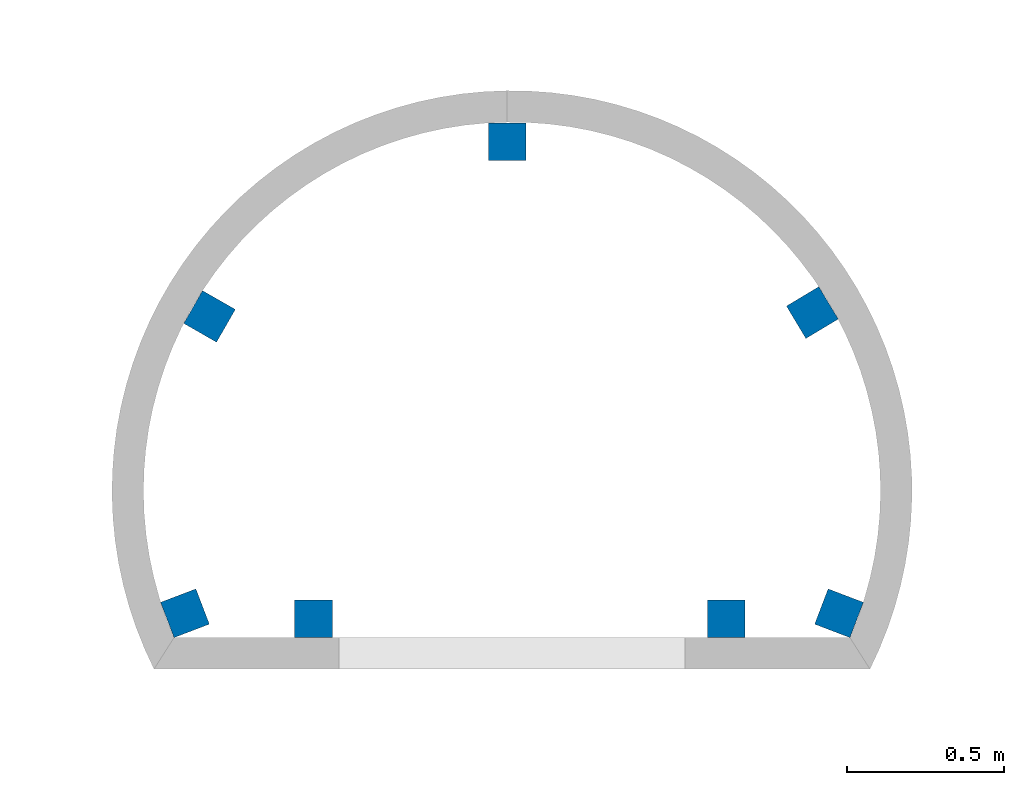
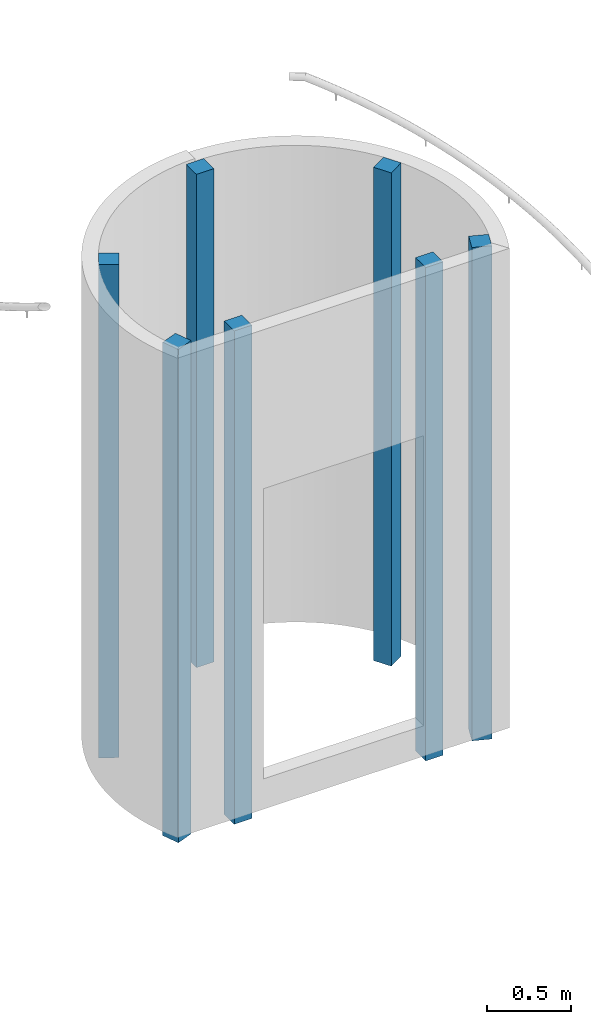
# One storey, part 1 of 7: 7 columns.
"""IFC4 building model written with IfcOpenShell, lengths in millimetres."""

from ifc_helpers import new_model, entity, si_unit, converted_unit, derived_unit, direction, frame, origin_with_axes, place, context, subcontext, project, spatial, line, indexed_curve, outline, extrude, material, material_profile, profile_set, type_object, element, save


model = new_model("IFC4")

# Units and contexts
model_context = context("Model", 3, precision=0.01, world=origin_with_axes(), true_north=direction((0.0, 1.0)))
body_context = subcontext(model_context, "Body", "Model", "MODEL_VIEW")
ifc_project = project(units=[si_unit("LENGTHUNIT", "METRE", prefix="MILLI"), si_unit("AREAUNIT", "SQUARE_METRE"), si_unit("VOLUMEUNIT", "CUBIC_METRE"), converted_unit("PLANEANGLEUNIT", "DEGREE", entity("IfcPlaneAngleMeasure", 0.0174532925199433), si_unit("PLANEANGLEUNIT", "RADIAN"), dimensions=[0, 0, 0, 0, 0, 0, 0]), converted_unit("TIMEUNIT", "Year", entity("IfcTimeMeasure", 31557600.0), si_unit("TIMEUNIT", "SECOND"), dimensions=[0, 0, 1, 0, 0, 0, 0]), si_unit("MASSUNIT", "GRAM", prefix="KILO"), si_unit("THERMODYNAMICTEMPERATUREUNIT", "DEGREE_CELSIUS"), si_unit("LUMINOUSINTENSITYUNIT", "LUMEN"), si_unit("ENERGYUNIT", "JOULE", prefix="MEGA"), derived_unit("THERMALCONDUCTANCEUNIT", [(si_unit("POWERUNIT", "WATT"), 1), (si_unit("LENGTHUNIT", "METRE"), -1), (si_unit("THERMODYNAMICTEMPERATUREUNIT", "KELVIN"), -1)]), derived_unit("SPECIFICHEATCAPACITYUNIT", [(si_unit("ENERGYUNIT", "JOULE"), 1), (si_unit("MASSUNIT", "GRAM", prefix="KILO"), -1), (si_unit("THERMODYNAMICTEMPERATUREUNIT", "KELVIN"), -1)]), derived_unit("MASSDENSITYUNIT", [(si_unit("MASSUNIT", "GRAM", prefix="KILO"), 1), (si_unit("VOLUMEUNIT", "CUBIC_METRE"), -1)])], contexts=[model_context])

# Site, building, storey
site_placement = place(None, origin_with_axes())
site = spatial("IfcSite", under=ifc_project, at=site_placement, Name="Exteriér", CompositionType="ELEMENT")
building_placement = place(site_placement, origin_with_axes())
building = spatial("IfcBuilding", under=site, at=building_placement, Name="Univerzitní lezecké centrum", CompositionType="ELEMENT")
storey_placement = place(building_placement, frame((0.0, 0.0, -3350.0), z_axis=(0.0, 0.0, 1.0), x_axis=(1.0, 0.0, 0.0)))
storey = spatial("IfcBuildingStorey", under=building, at=storey_placement, Name="1.PP", CompositionType="ELEMENT", Elevation=-3350.0)

# Columns
ifc_material = material(Name="OBECNÉ - HRUBÉ STAVEBNÍ KONSTRUKCE")
ifc_material_profile_1 = material_profile(ifc_material, outline(indexed_curve([(-60.00000007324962, -60.00000007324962), (60.00000007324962, -60.00000007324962), (60.00000007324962, 60.00000007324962), (-60.00000007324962, 60.00000007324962)], segments=[line(1, 2, 3, 4, 1)])), Name="OBECNÉ - HRUBÉ STAVEBNÍ KONSTRUKCE")
ifc_profile_set_1 = profile_set([ifc_material_profile_1])
column_type = type_object("IfcColumnType", Name="Uživatelský profil 120 x 120", PredefinedType="COLUMN")
column_1_placement = place(storey_placement, frame((1411.539252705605, 3310.94092530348, -339.9999999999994), z_axis=(0.0, 0.0, 1.0), x_axis=(0.9342555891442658, 0.3566041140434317, 0.0)))
element("IfcColumn", 1, at=column_1_placement, inside=storey, type_object=column_type, material=ifc_profile_set_1, Name="S006", PredefinedType="COLUMN", context=body_context, shape_type="SweptSolid", body=[
    extrude(outline(indexed_curve([(-60.00000007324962, -60.00000007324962), (60.00000007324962, -60.00000007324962), (60.00000007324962, 60.00000007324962), (-60.00000007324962, 60.00000007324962)], segments=[line(1, 2, 3, 4, 1)])), origin_with_axes(), (0.0, 0.0, 1.0), 3570.000000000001),
])
ifc_material_profile_2 = material_profile(ifc_material, outline(indexed_curve([(-60.00000007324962, -60.00000007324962), (60.00000007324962, -60.00000007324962), (60.00000007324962, 60.00000007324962), (-60.00000007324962, 60.00000007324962)], segments=[line(1, 2, 3, 4, 1)])), Name="OBECNÉ - HRUBÉ STAVEBNÍ KONSTRUKCE")
ifc_profile_set_2 = profile_set([ifc_material_profile_2])
column_2_placement = place(storey_placement, frame((3488.141807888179, 3310.881584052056, -339.9999999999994), z_axis=(0.0, 0.0, 1.0), x_axis=(0.9342352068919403, -0.3566575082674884, 0.0)))
element("IfcColumn", 2, at=column_2_placement, inside=storey, type_object=column_type, material=ifc_profile_set_2, Name="S006", PredefinedType="COLUMN", context=body_context, shape_type="SweptSolid", body=[
    extrude(outline(indexed_curve([(-60.00000007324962, -60.00000007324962), (60.00000007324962, -60.00000007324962), (60.00000007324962, 60.00000007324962), (-60.00000007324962, 60.00000007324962)], segments=[line(1, 2, 3, 4, 1)])), frame((0.0, 0.0, 0.0), z_axis=(0.0, 0.0, -1.0), x_axis=(-1.0, 0.0, 0.0)), (0.0, 0.0, -1.0), 3570.000000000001),
])
ifc_material_profile_3 = material_profile(ifc_material, outline(indexed_curve([(-60.00000010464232, -60.00000010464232), (60.00000010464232, -60.00000010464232), (60.00000010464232, 60.00000010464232), (-60.00000010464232, 60.00000010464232)], segments=[line(1, 2, 3, 4, 1)])), Name="OBECNÉ - HRUBÉ STAVEBNÍ KONSTRUKCE")
ifc_profile_set_3 = profile_set([ifc_material_profile_3])
column_3_placement = place(storey_placement, frame((2434.703625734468, 4807.584161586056, -339.9999999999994), z_axis=(0.0, 0.0, 1.0), x_axis=(1.0, 0.0, 0.0)))
element("IfcColumn", 3, at=column_3_placement, inside=storey, type_object=column_type, material=ifc_profile_set_3, Name="S006", PredefinedType="COLUMN", context=body_context, shape_type="SweptSolid", body=[
    extrude(outline(indexed_curve([(-60.00000010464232, -60.00000010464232), (60.00000010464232, -60.00000010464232), (60.00000010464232, 60.00000010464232), (-60.00000010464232, 60.00000010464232)], segments=[line(1, 2, 3, 4, 1)])), origin_with_axes(), (0.0, 0.0, 1.0), 3570.000000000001),
])
ifc_material_profile_4 = material_profile(ifc_material, outline(indexed_curve([(-60.00000010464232, -60.00000010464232), (60.00000010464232, -60.00000010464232), (60.00000010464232, 60.00000010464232), (-60.00000010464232, 60.00000010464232)], segments=[line(1, 2, 3, 4, 1)])), Name="OBECNÉ - HRUBÉ STAVEBNÍ KONSTRUKCE")
ifc_profile_set_4 = profile_set([ifc_material_profile_4])
column_4_placement = place(storey_placement, frame((1489.53625742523, 4253.287418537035, -339.9999999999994), z_axis=(0.0, 0.0, 1.0), x_axis=(0.867866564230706, -0.4967973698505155, 0.0)))
element("IfcColumn", 4, at=column_4_placement, inside=storey, type_object=column_type, material=ifc_profile_set_4, Name="S007", PredefinedType="COLUMN", context=body_context, shape_type="SweptSolid", body=[
    extrude(outline(indexed_curve([(-60.00000010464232, -60.00000010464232), (60.00000010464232, -60.00000010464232), (60.00000010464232, 60.00000010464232), (-60.00000010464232, 60.00000010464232)], segments=[line(1, 2, 3, 4, 1)])), origin_with_axes(), (0.0, 0.0, 1.0), 3570.000000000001),
])
ifc_material_profile_5 = material_profile(ifc_material, outline(indexed_curve([(-60.00000010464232, -60.00000010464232), (60.00000010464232, -60.00000010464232), (60.00000010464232, 60.00000010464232), (-60.00000010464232, 60.00000010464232)], segments=[line(1, 2, 3, 4, 1)])), Name="OBECNÉ - HRUBÉ STAVEBNÍ KONSTRUKCE")
ifc_profile_set_5 = profile_set([ifc_material_profile_5])
column_5_placement = place(storey_placement, frame((3403.472159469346, 4265.511352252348, -339.9999999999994), z_axis=(0.0, 0.0, 1.0), x_axis=(0.8580664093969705, 0.5135387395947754, 0.0)))
element("IfcColumn", 5, at=column_5_placement, inside=storey, type_object=column_type, material=ifc_profile_set_5, Name="S008", PredefinedType="COLUMN", context=body_context, shape_type="SweptSolid", body=[
    extrude(outline(indexed_curve([(-60.00000010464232, -60.00000010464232), (60.00000010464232, -60.00000010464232), (60.00000010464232, 60.00000010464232), (-60.00000010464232, 60.00000010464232)], segments=[line(1, 2, 3, 4, 1)])), origin_with_axes(), (0.0, 0.0, 1.0), 3570.000000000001),
])
ifc_material_profile_6 = material_profile(ifc_material, outline(indexed_curve([(-60.00000010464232, -60.00000010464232), (60.00000010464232, -60.00000010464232), (60.00000010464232, 60.00000010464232), (-60.00000010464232, 60.00000010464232)], segments=[line(1, 2, 3, 4, 1)])), Name="OBECNÉ - HRUBÉ STAVEBNÍ KONSTRUKCE")
ifc_profile_set_6 = profile_set([ifc_material_profile_6])
column_6_placement = place(storey_placement, frame((3129.966389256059, 3293.405869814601, -339.9999999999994), z_axis=(0.0, 0.0, 1.0), x_axis=(0.9999999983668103, -5.715224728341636e-05, 0.0)))
element("IfcColumn", 6, at=column_6_placement, inside=storey, type_object=column_type, material=ifc_profile_set_6, Name="S006", PredefinedType="COLUMN", context=body_context, shape_type="SweptSolid", body=[
    extrude(outline(indexed_curve([(-60.00000010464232, -60.00000010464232), (60.00000010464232, -60.00000010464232), (60.00000010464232, 60.00000010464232), (-60.00000010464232, 60.00000010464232)], segments=[line(1, 2, 3, 4, 1)])), frame((0.0, 0.0, 0.0), z_axis=(0.0, 0.0, -1.0), x_axis=(-1.0, 0.0, 0.0)), (0.0, 0.0, -1.0), 3570.000000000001),
])
ifc_material_profile_7 = material_profile(ifc_material, outline(indexed_curve([(-60.00000010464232, -60.00000010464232), (60.00000010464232, -60.00000010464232), (60.00000010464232, 60.00000010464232), (-60.00000010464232, 60.00000010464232)], segments=[line(1, 2, 3, 4, 1)])), Name="OBECNÉ - HRUBÉ STAVEBNÍ KONSTRUKCE")
ifc_profile_set_7 = profile_set([ifc_material_profile_7])
column_7_placement = place(storey_placement, frame((1819.713671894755, 3293.441882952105, -339.9999999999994), z_axis=(0.0, 0.0, 1.0), x_axis=(1.0, 0.0, 0.0)))
element("IfcColumn", 7, at=column_7_placement, inside=storey, type_object=column_type, material=ifc_profile_set_7, Name="S006", PredefinedType="COLUMN", context=body_context, shape_type="SweptSolid", body=[
    extrude(outline(indexed_curve([(-60.00000010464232, -60.00000010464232), (60.00000010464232, -60.00000010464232), (60.00000010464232, 60.00000010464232), (-60.00000010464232, 60.00000010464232)], segments=[line(1, 2, 3, 4, 1)])), origin_with_axes(), (0.0, 0.0, 1.0), 3570.000000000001),
])

save(model, "model.ifc")
